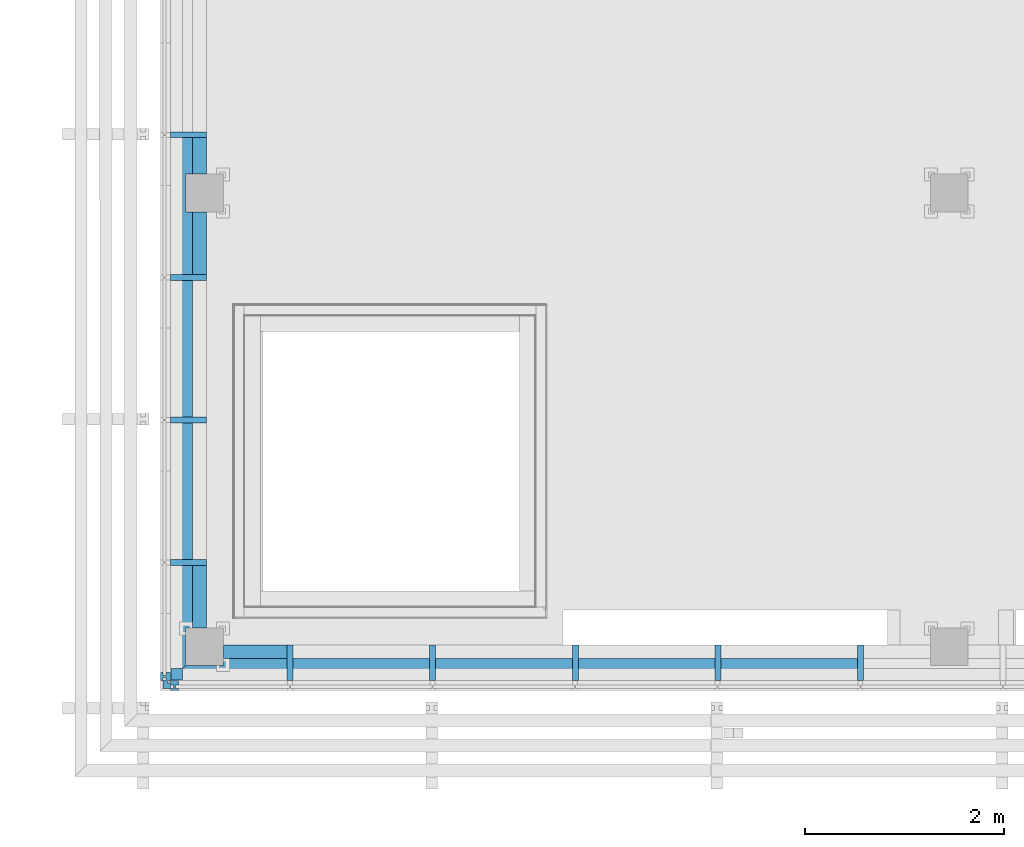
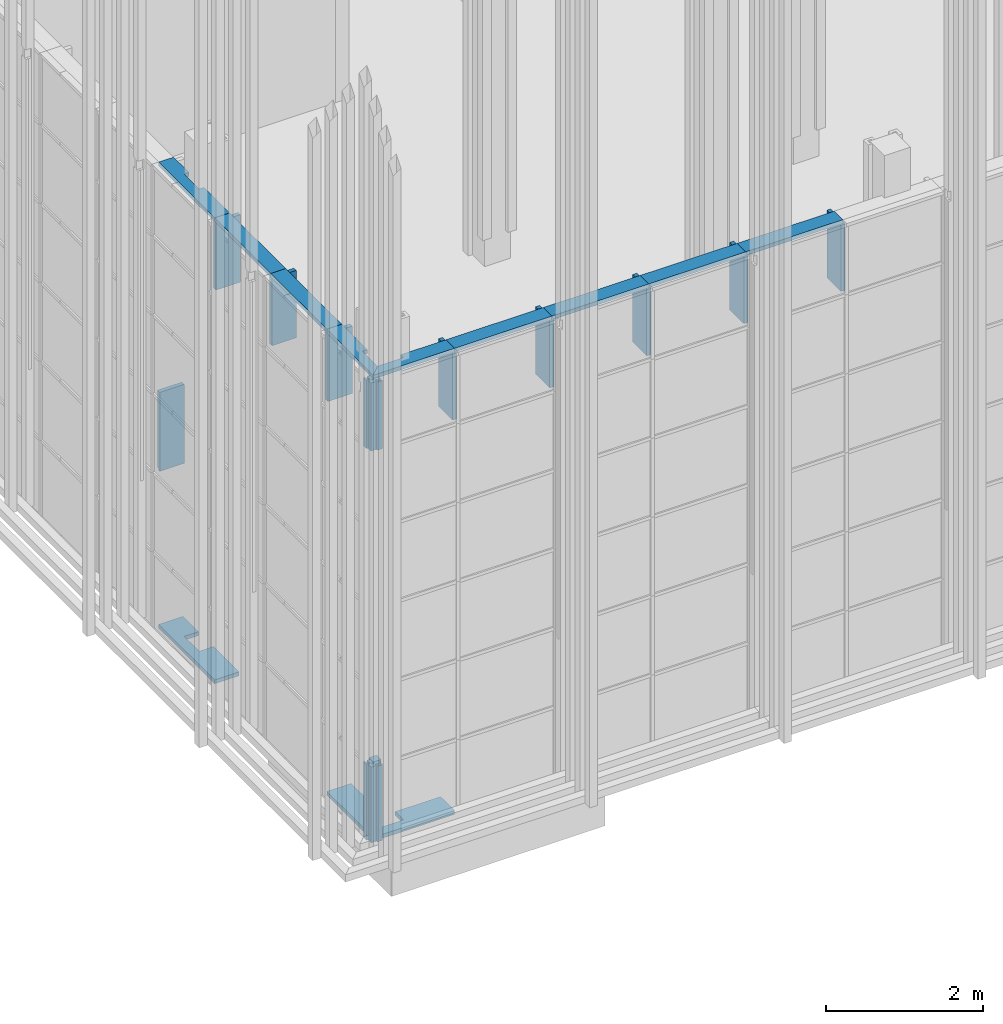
# One storey, part 67 of 260: 24 members, 2 elements without a shape of their own.
"""IFC2X3 building model written with IfcOpenShell, lengths in millimetres."""

from ifc_helpers import new_model, entity, si_unit, converted_unit, derived_unit, money_unit, direction, frame, origin_with_axes, place, context, subcontext, project, spatial, faceted_brep, material, type_object, element, aggregate, save


model = new_model("IFC2X3")

# Units and contexts
model_context = context("Model", 3, precision=0.01, world=origin_with_axes(), true_north=direction((0.0, 1.0)))
body_context = subcontext(model_context, "Body", "Model", "MODEL_VIEW")
ifc_project = project(units=[si_unit("LENGTHUNIT", "METRE", prefix="MILLI"), si_unit("AREAUNIT", "SQUARE_METRE"), si_unit("VOLUMEUNIT", "CUBIC_METRE"), converted_unit("PLANEANGLEUNIT", "DEGREE", entity("IfcPlaneAngleMeasure", 0.0174532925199), si_unit("PLANEANGLEUNIT", "RADIAN"), dimensions=[0, 0, 0, 0, 0, 0, 0]), money_unit("EUR"), converted_unit("TIMEUNIT", "Year", entity("IfcTimeMeasure", 31556926.0), si_unit("TIMEUNIT", "SECOND"), dimensions=[0, 0, 1, 0, 0, 0, 0]), si_unit("MASSUNIT", "GRAM", prefix="KILO"), si_unit("THERMODYNAMICTEMPERATUREUNIT", "DEGREE_CELSIUS"), si_unit("LUMINOUSINTENSITYUNIT", "LUMEN"), si_unit("ENERGYUNIT", "JOULE", prefix="MEGA"), derived_unit("THERMALCONDUCTANCEUNIT", [(si_unit("POWERUNIT", "WATT"), 1), (si_unit("LENGTHUNIT", "METRE"), -1), (si_unit("THERMODYNAMICTEMPERATUREUNIT", "KELVIN"), -1)]), derived_unit("SPECIFICHEATCAPACITYUNIT", [(si_unit("ENERGYUNIT", "JOULE"), 1), (si_unit("MASSUNIT", "GRAM", prefix="KILO"), -1), (si_unit("THERMODYNAMICTEMPERATUREUNIT", "KELVIN"), -1)]), derived_unit("MASSDENSITYUNIT", [(si_unit("MASSUNIT", "GRAM", prefix="KILO"), 1), (si_unit("VOLUMEUNIT", "CUBIC_METRE"), -1)])], contexts=[model_context])

# Site, building, storey
site_placement = place(None, origin_with_axes())
site = spatial("IfcSite", under=ifc_project, at=site_placement, Name="Kolde pst 67a", CompositionType="ELEMENT")
building_placement = place(site_placement, origin_with_axes())
building = spatial("IfcBuilding", under=site, at=building_placement, Name="Riigigümnaasium", CompositionType="ELEMENT")
storey_placement = place(building_placement, origin_with_axes())
storey = spatial("IfcBuildingStorey", under=building, at=storey_placement, Name="1. korrus", CompositionType="ELEMENT", Elevation=0.0)

# Curtain wall, members
curtain_wall_type = type_object("IfcCurtainWallType", Name="Curtain Wall Type", PredefinedType="NOTDEFINED")
curtain_wall_1_placement = place(storey_placement, frame((47829.9854655, 8727.77020058, -0.000749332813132), z_axis=(0.0, 0.0, 1.0), x_axis=(1.0, 0.0, 0.0)))
curtain_wall_1 = element("IfcCurtainWall", 1, at=curtain_wall_1_placement, inside=storey, type_object=curtain_wall_type, Name="KLAASFASSAAD")
ifc_material_1 = material(Name="_METALL - alumiinium")
member_type_1 = type_object("IfcMemberType", Name="Corner Frame 80 x 100", PredefinedType="MEMBER")
member_1_placement = place(curtain_wall_1_placement, frame((-23999.9841542, 15102.5038042, 2.49889189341e-05), z_axis=(0.0, 0.0, 1.0), x_axis=(0.707100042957, -0.707113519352, 0.0)))
member_1 = element("IfcMember", 2, at=member_1_placement, type_object=member_type_1, material=ifc_material_1, Name="RF RAAM NURK-957", ObjectType="MEMBER", context=body_context, shape_type="Brep", body=[
    faceted_brep([(-89.4491322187, 66.1143157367, 50.0), (-89.4491322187, 66.1143157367, 1230.00072434), (-66.114652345, 89.4488834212, 1230.00072434), (-66.114652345, 89.4488834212, 50.0), (-75.3069699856, 51.9722067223, 50.0), (-75.3069699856, 51.9722067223, 1230.00072434), (-51.9724901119, 75.3067744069, 1230.00072434), (-51.9724901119, 75.3067744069, 50.0)], [[[0, 1, 2, 3]], [[4, 5, 1, 0]], [[2, 1, 5, 6]], [[3, 2, 6, 7]], [[3, 7, 4, 0]], [[7, 6, 5, 4]]]),
    faceted_brep([(-87.3278956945, 110.662046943, 50.0), (-87.3278956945, 110.662046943, 1230.00072434), (-56.5688085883, 141.4212498, 1230.00072434), (-56.5688085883, 141.4212498, 50.0), (-30.7592467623, 54.0936108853, 50.0), (-30.7592467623, 54.0936108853, 1230.00072434), (-0.000159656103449, 84.8528137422, 1230.00072434), (-0.000159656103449, 84.8528137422, 50.0)], [[[0, 1, 2, 3]], [[4, 5, 1, 0]], [[2, 1, 5, 6]], [[3, 2, 6, 7]], [[3, 7, 4, 0]], [[7, 6, 5, 4]]]),
    faceted_brep([(-54.093726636, 30.7590432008, 50.0), (-54.093726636, 30.7590432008, 1230.00072434), (-70.7107047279, 14.142002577, 1230.00072434), (-70.7107047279, 14.142002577, 50.0), (-110.662375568, 87.3274792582, 50.0), (-110.662375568, 87.3274792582, 1230.00072434), (-127.27935366, 70.7104386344, 1230.00072434), (-127.27935366, 70.7104386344, 50.0)], [[[0, 1, 2, 3]], [[4, 5, 1, 0]], [[2, 1, 5, 6]], [[3, 2, 6, 7]], [[3, 7, 4, 0]], [[7, 6, 5, 4]]]),
    faceted_brep([(49.8510939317, 35.0016918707, 50.0), (49.8510939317, 35.0016918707, 1230.00072434), (54.093726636, 30.7590432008, 1230.00072434), (54.093726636, 30.7590432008, 50.0), (0.0, -14.8492144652, 50.0), (0.0, -14.8492144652, 1230.00072434), (-49.8510939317, 35.0016918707, 1230.00072434), (-54.093726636, 30.7590432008, 1230.00072434), (0.0, -23.3344798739, 1230.00072434), (0.0, -23.3344798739, 50.0), (-54.093726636, 30.7590432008, 50.0), (-49.8510939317, 35.0016918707, 50.0)], [[[0, 1, 2, 3]], [[4, 5, 1, 0]], [[2, 1, 5, 6, 7, 8]], [[3, 2, 8, 9]], [[3, 9, 10, 11, 4, 0]], [[11, 6, 5, 4]], [[10, 7, 6, 11]], [[9, 8, 7, 10]]]),
    faceted_brep([(45.6084452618, 30.7590591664, 50.0), (45.6084452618, 30.7590591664, 1230.00072434), (18.7384381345, 57.6291674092, 1230.00072434), (18.7384381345, 57.6291674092, 50.0), (49.8510939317, 35.0016918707, 50.0), (49.8510939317, 35.0016918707, 1230.00072434), (18.7384541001, 66.1144487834, 1230.00072434), (0.0, 47.3760651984, 1230.00072434), (-18.7384541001, 66.1144487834, 1230.00072434), (-49.8510939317, 35.0016918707, 1230.00072434), (-45.6084452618, 30.7590591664, 1230.00072434), (-18.7384381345, 57.6291674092, 1230.00072434), (0.0, 38.8907997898, 1230.00072434), (0.0, 38.8907997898, 50.0), (-18.7384381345, 57.6291674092, 50.0), (-45.6084452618, 30.7590591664, 50.0), (-49.8510939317, 35.0016918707, 50.0), (-18.7384541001, 66.1144487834, 50.0), (0.0, 47.3760651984, 50.0), (18.7384541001, 66.1144487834, 50.0)], [[[0, 1, 2, 3]], [[4, 5, 1, 0]], [[2, 1, 5, 6, 7, 8, 9, 10, 11, 12]], [[3, 2, 12, 13]], [[3, 13, 14, 15, 16, 17, 18, 19, 4, 0]], [[19, 6, 5, 4]], [[18, 7, 6, 19]], [[17, 8, 7, 18]], [[16, 9, 8, 17]], [[15, 10, 9, 16]], [[14, 11, 10, 15]], [[13, 12, 11, 14]]]),
    faceted_brep([(18.7384381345, 57.6291674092, 50.0), (18.7384381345, 57.6291674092, 1230.00072434), (45.6084452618, 30.7590591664, 1230.00072434), (45.6084452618, 30.7590591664, 50.0), (0.0, 38.8907997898, 50.0), (0.0, 38.8907997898, 1230.00072434), (-18.7384381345, 57.6291674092, 1230.00072434), (-45.6084452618, 30.7590591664, 1230.00072434), (0.0, -14.8492144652, 1230.00072434), (0.0, -14.8492144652, 50.0), (-45.6084452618, 30.7590591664, 50.0), (-18.7384381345, 57.6291674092, 50.0)], [[[0, 1, 2, 3]], [[4, 5, 1, 0]], [[2, 1, 5, 6, 7, 8]], [[3, 2, 8, 9]], [[3, 9, 10, 11, 4, 0]], [[11, 6, 5, 4]], [[10, 7, 6, 11]], [[9, 8, 7, 10]]]),
    faceted_brep([(75.3069699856, 51.9722067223, 50.0), (75.3069699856, 51.9722067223, 1230.00072434), (51.9724901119, 75.3067744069, 1230.00072434), (51.9724901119, 75.3067744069, 50.0), (89.4491322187, 66.1143157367, 50.0), (89.4491322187, 66.1143157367, 1230.00072434), (66.114652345, 89.4488834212, 1230.00072434), (66.114652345, 89.4488834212, 50.0)], [[[0, 1, 2, 3]], [[4, 5, 1, 0]], [[2, 1, 5, 6]], [[3, 2, 6, 7]], [[3, 7, 4, 0]], [[7, 6, 5, 4]]]),
    faceted_brep([(30.7592467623, 54.0936108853, 50.0), (30.7592467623, 54.0936108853, 1230.00072434), (0.000159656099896, 84.8528137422, 1230.00072434), (0.000159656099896, 84.8528137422, 50.0), (87.3278956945, 110.662046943, 50.0), (87.3278956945, 110.662046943, 1230.00072434), (56.5688085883, 141.4212498, 1230.00072434), (56.5688085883, 141.4212498, 50.0)], [[[0, 1, 2, 3]], [[4, 5, 1, 0]], [[2, 1, 5, 6]], [[3, 2, 6, 7]], [[3, 7, 4, 0]], [[7, 6, 5, 4]]]),
    faceted_brep([(110.662375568, 87.3274792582, 50.0), (110.662375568, 87.3274792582, 1230.00072434), (127.27935366, 70.7104386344, 1230.00072434), (127.27935366, 70.7104386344, 50.0), (54.093726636, 30.7590432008, 50.0), (54.093726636, 30.7590432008, 1230.00072434), (70.7107047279, 14.142002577, 1230.00072434), (70.7107047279, 14.142002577, 50.0)], [[[0, 1, 2, 3]], [[4, 5, 1, 0]], [[2, 1, 5, 6]], [[3, 2, 6, 7]], [[3, 7, 4, 0]], [[7, 6, 5, 4]]]),
])
member_2_placement = place(curtain_wall_1_placement, frame((-23999.9841542, 15102.5038042, 6150.00074933), z_axis=(0.0, 0.0, 1.0), x_axis=(0.707100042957, -0.707113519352, 0.0)))
member_2 = element("IfcMember", 3, at=member_2_placement, type_object=member_type_1, material=ifc_material_1, Name="RF RAAM NURK-962", ObjectType="MEMBER", context=body_context, shape_type="Brep", body=[
    faceted_brep([(-66.114652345, 89.4488834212, 0.0), (-89.4491322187, 66.1143157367, 0.0), (-89.4491322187, 66.1143157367, 1059.99917802), (-66.114652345, 89.4488834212, 1059.99917802), (-51.9724901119, 75.3067744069, 0.0), (-75.3069699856, 51.9722067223, 0.0), (-75.3069699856, 51.9722067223, 1059.99917802), (-51.9724901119, 75.3067744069, 1059.99917802)], [[[0, 1, 2, 3]], [[0, 4, 5, 1]], [[1, 5, 6, 2]], [[3, 2, 6, 7]], [[4, 0, 3, 7]], [[5, 4, 7, 6]]]),
    faceted_brep([(-56.5688085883, 141.4212498, 0.0), (-87.3278956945, 110.662046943, 0.0), (-87.3278956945, 110.662046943, 1059.99917802), (-56.5688085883, 141.4212498, 1059.99917802), (-0.000159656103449, 84.8528137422, 0.0), (-30.7592467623, 54.0936108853, 0.0), (-30.7592467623, 54.0936108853, 1059.99917802), (-0.000159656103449, 84.8528137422, 1059.99917802)], [[[0, 1, 2, 3]], [[0, 4, 5, 1]], [[1, 5, 6, 2]], [[3, 2, 6, 7]], [[4, 0, 3, 7]], [[5, 4, 7, 6]]]),
    faceted_brep([(-70.7107047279, 14.142002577, 0.0), (-54.093726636, 30.7590432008, 0.0), (-54.093726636, 30.7590432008, 1059.99917802), (-70.7107047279, 14.142002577, 1059.99917802), (-127.27935366, 70.7104386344, 0.0), (-110.662375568, 87.3274792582, 0.0), (-110.662375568, 87.3274792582, 1059.99917802), (-127.27935366, 70.7104386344, 1059.99917802)], [[[0, 1, 2, 3]], [[0, 4, 5, 1]], [[1, 5, 6, 2]], [[3, 2, 6, 7]], [[4, 0, 3, 7]], [[5, 4, 7, 6]]]),
    faceted_brep([(54.093726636, 30.7590432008, 0.0), (49.8510939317, 35.0016918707, 0.0), (49.8510939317, 35.0016918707, 1059.99917802), (54.093726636, 30.7590432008, 1059.99917802), (0.0, -23.3344798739, 0.0), (-54.093726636, 30.7590432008, 0.0), (-49.8510939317, 35.0016918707, 0.0), (0.0, -14.8492144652, 0.0), (0.0, -14.8492144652, 1059.99917802), (-49.8510939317, 35.0016918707, 1059.99917802), (-54.093726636, 30.7590432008, 1059.99917802), (0.0, -23.3344798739, 1059.99917802)], [[[0, 1, 2, 3]], [[0, 4, 5, 6, 7, 1]], [[1, 7, 8, 2]], [[3, 2, 8, 9, 10, 11]], [[4, 0, 3, 11]], [[5, 4, 11, 10]], [[6, 5, 10, 9]], [[7, 6, 9, 8]]]),
    faceted_brep([(18.7384381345, 57.6291674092, 0.0), (45.6084452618, 30.7590591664, 0.0), (45.6084452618, 30.7590591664, 1059.99917802), (18.7384381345, 57.6291674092, 1059.99917802), (0.0, 38.8907997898, 0.0), (-18.7384381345, 57.6291674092, 0.0), (-45.6084452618, 30.7590591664, 0.0), (-49.8510939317, 35.0016918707, 0.0), (-18.7384541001, 66.1144487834, 0.0), (0.0, 47.3760651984, 0.0), (18.7384541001, 66.1144487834, 0.0), (49.8510939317, 35.0016918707, 0.0), (49.8510939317, 35.0016918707, 1059.99917802), (18.7384541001, 66.1144487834, 1059.99917802), (0.0, 47.3760651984, 1059.99917802), (-18.7384541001, 66.1144487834, 1059.99917802), (-49.8510939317, 35.0016918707, 1059.99917802), (-45.6084452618, 30.7590591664, 1059.99917802), (-18.7384381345, 57.6291674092, 1059.99917802), (0.0, 38.8907997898, 1059.99917802)], [[[0, 1, 2, 3]], [[0, 4, 5, 6, 7, 8, 9, 10, 11, 1]], [[1, 11, 12, 2]], [[3, 2, 12, 13, 14, 15, 16, 17, 18, 19]], [[4, 0, 3, 19]], [[5, 4, 19, 18]], [[6, 5, 18, 17]], [[7, 6, 17, 16]], [[8, 7, 16, 15]], [[9, 8, 15, 14]], [[10, 9, 14, 13]], [[11, 10, 13, 12]]]),
    faceted_brep([(45.6084452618, 30.7590591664, 0.0), (18.7384381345, 57.6291674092, 0.0), (18.7384381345, 57.6291674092, 1059.99917802), (45.6084452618, 30.7590591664, 1059.99917802), (0.0, -14.8492144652, 0.0), (-45.6084452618, 30.7590591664, 0.0), (-18.7384381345, 57.6291674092, 0.0), (0.0, 38.8907997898, 0.0), (0.0, 38.8907997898, 1059.99917802), (-18.7384381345, 57.6291674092, 1059.99917802), (-45.6084452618, 30.7590591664, 1059.99917802), (0.0, -14.8492144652, 1059.99917802)], [[[0, 1, 2, 3]], [[0, 4, 5, 6, 7, 1]], [[1, 7, 8, 2]], [[3, 2, 8, 9, 10, 11]], [[4, 0, 3, 11]], [[5, 4, 11, 10]], [[6, 5, 10, 9]], [[7, 6, 9, 8]]]),
    faceted_brep([(51.9724901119, 75.3067744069, 0.0), (75.3069699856, 51.9722067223, 0.0), (75.3069699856, 51.9722067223, 1059.99917802), (51.9724901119, 75.3067744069, 1059.99917802), (66.114652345, 89.4488834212, 0.0), (89.4491322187, 66.1143157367, 0.0), (89.4491322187, 66.1143157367, 1059.99917802), (66.114652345, 89.4488834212, 1059.99917802)], [[[0, 1, 2, 3]], [[0, 4, 5, 1]], [[1, 5, 6, 2]], [[3, 2, 6, 7]], [[4, 0, 3, 7]], [[5, 4, 7, 6]]]),
    faceted_brep([(0.000159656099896, 84.8528137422, 0.0), (30.7592467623, 54.0936108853, 0.0), (30.7592467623, 54.0936108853, 1059.99917802), (0.000159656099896, 84.8528137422, 1059.99917802), (56.5688085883, 141.4212498, 0.0), (87.3278956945, 110.662046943, 0.0), (87.3278956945, 110.662046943, 1059.99917802), (56.5688085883, 141.4212498, 1059.99917802)], [[[0, 1, 2, 3]], [[0, 4, 5, 1]], [[1, 5, 6, 2]], [[3, 2, 6, 7]], [[4, 0, 3, 7]], [[5, 4, 7, 6]]]),
    faceted_brep([(127.27935366, 70.7104386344, 0.0), (110.662375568, 87.3274792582, 0.0), (110.662375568, 87.3274792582, 1059.99917802), (127.27935366, 70.7104386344, 1059.99917802), (70.7107047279, 14.142002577, 0.0), (54.093726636, 30.7590432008, 0.0), (54.093726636, 30.7590432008, 1059.99917802), (70.7107047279, 14.142002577, 1059.99917802)], [[[0, 1, 2, 3]], [[0, 4, 5, 1]], [[1, 5, 6, 2]], [[3, 2, 6, 7]], [[4, 0, 3, 7]], [[5, 4, 7, 6]]]),
])
aggregate(curtain_wall_1, [member_1, member_2])

curtain_wall_2_placement = place(storey_placement, frame((23890.0026791, 27220.1832522, -0.000253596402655), z_axis=(0.0, 0.0, 1.0), x_axis=(1.0, 0.0, 0.0)))
curtain_wall_2 = element("IfcCurtainWall", 4, at=curtain_wall_2_placement, inside=storey, type_object=curtain_wall_type, Name="Klaasfassaadi puitkarkass")
ifc_material_2 = material(Name="_KANDETARIND - liimpuit vastavalt EK osale")
member_type_2 = type_object("IfcMemberType", Name="120 x 120", PredefinedType="MULLION")
member_3_placement = place(curtain_wall_2_placement, frame((-1.70701603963e-05, -3330.16844724, 0.0), z_axis=(0.0, 0.0, 1.0), x_axis=(0.707106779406, -0.707106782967, 0.0)))
member_3 = element("IfcMember", 5, at=member_3_placement, type_object=member_type_2, material=ifc_material_2, Name="RF RAAM NURK-852", ObjectType="MULLION", context=body_context, shape_type="Brep", body=[
    faceted_brep([(0.0, 169.705627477, 60.0), (0.0, 169.705627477, 1230.0002536), (81.3172798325, 88.388347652, 1230.0002536), (81.3172798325, 88.388347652, 60.0), (-81.3172798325, 88.388347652, 60.0), (-81.3172798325, 88.388347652, 1230.0002536), (0.0, 7.07106781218, 1230.0002536), (0.0, 7.07106781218, 60.0)], [[[0, 1, 2, 3]], [[4, 5, 1, 0]], [[2, 1, 5, 6]], [[3, 2, 6, 7]], [[3, 7, 4, 0]], [[7, 6, 5, 4]]]),
])
member_type_3 = type_object("IfcMemberType", Name="Boundary Frame 60 x 360", PredefinedType="MEMBER")
member_4_placement = place(curtain_wall_2_placement, frame((-1.70701603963e-05, -3330.16844724, 0.0), z_axis=(5.12591514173e-09, 1.0, 0.0), x_axis=(0.0, 0.0, 1.0)))
member_4 = element("IfcMember", 6, at=member_4_placement, type_object=member_type_3, material=ifc_material_2, Name="RF RAAM SERV-709", ObjectType="MEMBER", context=body_context, shape_type="Brep", body=[
    faceted_brep([(60.0, 150.00007139, 150.255589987), (60.0, 150.000069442, 530.255589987), (60.0, 359.999997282, 530.255591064), (60.0, 359.999993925, 1185.16844929), (60.0, -6.07507288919e-06, 1185.16844745), (60.0, 0.0, 0.0), (60.0, 150.255587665, 150.255589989), (0.000253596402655, 150.00007139, 150.255589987), (0.000253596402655, 150.000069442, 530.255589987), (0.000253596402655, 359.999997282, 530.255591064), (0.0, 359.999993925, 1185.16844929), (0.0, -6.07507288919e-06, 1185.16844745), (0.0, 0.0, 0.0), (0.000253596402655, 150.255587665, 150.255589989)], [[[0, 1, 2, 3, 4, 5, 6]], [[1, 0, 7, 8]], [[9, 2, 1, 8]], [[2, 9, 10, 3]], [[4, 3, 10, 11]], [[11, 12, 5, 4]], [[13, 6, 5, 12]], [[0, 6, 13, 7]], [[7, 13, 12, 11, 10, 9, 8]]]),
])
member_5_placement = place(curtain_wall_2_placement, frame((3.66502916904e-06, 715.0, 0.0), z_axis=(5.12591740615e-09, 1.0, 0.0), x_axis=(0.0, 0.0, 1.0)))
member_5 = element("IfcMember", 7, at=member_5_placement, type_object=member_type_3, material=ifc_material_2, Name="RF RAAM SERV-712", ObjectType="MEMBER", context=body_context, shape_type="Brep", body=[
    faceted_brep([(60.0, 150.000048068, 654.816448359), (60.0, 150.00004612, 1034.81644836), (60.0, 359.999994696, 1034.81644944), (60.0, 359.99999267, 1430.00000185), (60.0, -7.3300618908e-06, 1430.0), (60.0, 0.0, 0.0), (60.0, 360.0, 1.84532922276e-06), (60.0, 359.999996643, 654.816449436), (0.000253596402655, 150.000048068, 654.816448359), (0.000253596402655, 150.00004612, 1034.81644836), (0.000253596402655, 359.999994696, 1034.81644944), (0.0, 359.99999267, 1430.00000185), (0.0, -7.3300618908e-06, 1430.0), (0.0, 0.0, 0.0), (0.0, 360.0, 1.84532922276e-06), (0.000253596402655, 359.999996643, 654.816449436)], [[[0, 1, 2, 3, 4, 5, 6, 7]], [[1, 0, 8, 9]], [[10, 2, 1, 9]], [[2, 10, 11, 3]], [[4, 3, 11, 12]], [[13, 5, 4, 12]], [[14, 6, 5, 13]], [[15, 7, 6, 14]], [[0, 7, 15, 8]], [[8, 15, 14, 13, 12, 11, 10, 9]]]),
])
member_6_placement = place(curtain_wall_2_placement, frame((1199.37705572, -3330.16844713, 0.000124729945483), z_axis=(-1.0, 0.0, 0.0), x_axis=(0.0, 0.0, 1.0)))
member_6 = element("IfcMember", 8, at=member_6_placement, type_object=member_type_3, material=ifc_material_2, Name="RF RAAM SERV-678", ObjectType="MEMBER", context=body_context, shape_type="Brep", body=[
    faceted_brep([(0.000128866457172, 360.0, 669.377000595), (60.0, 360.0, 669.377000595), (60.0, 360.0, 0.0), (0.0, 360.0, 0.0), (60.0, 150.255589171, 669.377000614), (0.000128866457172, 150.255589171, 669.377000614), (60.0, 150.255589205, 1049.1214828), (60.0, 0.0, 1199.37707279), (60.0, 0.0, 0.0), (0.0, 0.0, 0.0), (0.0, 0.0, 1199.37707279), (0.000128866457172, 150.255589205, 1049.1214828)], [[[0, 1, 2, 3]], [[4, 1, 0, 5]], [[4, 6, 7, 8, 2, 1]], [[3, 2, 8, 9]], [[5, 0, 3, 9, 10, 11]], [[6, 4, 5, 11]], [[6, 11, 10, 7]], [[9, 8, 7, 10]]]),
])
member_7_placement = place(curtain_wall_2_placement, frame((5489.37705572, -3330.16844674, 7259.9999973), z_axis=(1.0, 0.0, -9.10009783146e-09), x_axis=(-9.10009783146e-09, 0.0, -1.0)))
member_7 = element("IfcMember", 9, at=member_7_placement, type_object=member_type_3, material=ifc_material_2, Name="RF RAAM SERV-689", ObjectType="MEMBER", context=body_context, shape_type="Brep", body=[
    faceted_brep([(59.9997369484, 220.255589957, 1430.00000055), (-1.3013139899e-05, 220.255589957, 1430.0), (-1.3013139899e-05, 0.0, 1430.0), (59.9999869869, 0.0, 1430.00000055), (0.0, 220.255589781, 0.0), (59.9997499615, 220.255589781, 5.46005907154e-07), (0.0, 0.0, 0.0), (60.0, 0.0, 5.46005907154e-07)], [[[0, 1, 2, 3]], [[4, 1, 0, 5]], [[1, 4, 6, 2]], [[6, 7, 3, 2]], [[5, 0, 3, 7]], [[4, 5, 7, 6]]]),
])
member_8_placement = place(curtain_wall_2_placement, frame((4059.37705572, -3330.16844687, 7260.00001031), z_axis=(1.0, 0.0, -9.10009658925e-09), x_axis=(-9.10009658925e-09, 0.0, -1.0)))
member_8 = element("IfcMember", 10, at=member_8_placement, type_object=member_type_3, material=ifc_material_2, Name="RF RAAM SERV-688", ObjectType="MEMBER", context=body_context, shape_type="Brep", body=[
    faceted_brep([(59.9997499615, 220.255589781, 1430.00000055), (-1.30131381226e-05, 220.255589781, 1430.0), (-1.30131381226e-05, 0.0, 1430.0), (59.9999869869, 0.0, 1430.00000055), (0.0, 220.255589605, 0.0), (59.9997629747, 220.255589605, 5.46005907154e-07), (0.0, 0.0, 0.0), (60.0, 0.0, 5.46005907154e-07)], [[[0, 1, 2, 3]], [[4, 1, 0, 5]], [[1, 4, 6, 2]], [[6, 7, 3, 2]], [[5, 0, 3, 7]], [[4, 5, 7, 6]]]),
])
member_9_placement = place(curtain_wall_2_placement, frame((2629.37705572, -3330.168447, 7260.00002333), z_axis=(1.0, 0.0, -9.10009721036e-09), x_axis=(-9.10009721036e-09, 0.0, -1.0)))
member_9 = element("IfcMember", 11, at=member_9_placement, type_object=member_type_3, material=ifc_material_2, Name="RF RAAM SERV-687", ObjectType="MEMBER", context=body_context, shape_type="Brep", body=[
    faceted_brep([(59.9997629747, 220.255589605, 1430.00000055), (-1.30131390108e-05, 220.255589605, 1430.0), (-1.30131390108e-05, 0.0, 1430.0), (59.9999869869, 0.0, 1430.00000055), (0.0, 220.255589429, 0.0), (59.9997759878, 220.255589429, 5.46009459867e-07), (0.0, 0.0, 0.0), (60.0, 0.0, 5.46005907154e-07)], [[[0, 1, 2, 3]], [[4, 1, 0, 5]], [[1, 4, 6, 2]], [[6, 7, 3, 2]], [[5, 0, 3, 7]], [[4, 5, 7, 6]]]),
])
member_10_placement = place(curtain_wall_2_placement, frame((1199.37705572, -3330.16844713, 7260.00003634), z_axis=(1.0, 0.0, -9.10009658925e-09), x_axis=(-9.10009658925e-09, 0.0, -1.0)))
member_10 = element("IfcMember", 12, at=member_10_placement, type_object=member_type_3, material=ifc_material_2, Name="RF RAAM SERV-686", ObjectType="MEMBER", context=body_context, shape_type="Brep", body=[
    faceted_brep([(59.9997759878, 220.255589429, 1430.00000055), (-1.30131381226e-05, 220.255589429, 1430.0), (-1.30131381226e-05, 0.0, 1430.0), (59.9999869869, 0.0, 1430.00000055), (0.0, 220.255589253, 0.0), (59.999789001, 220.255589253, 5.46005907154e-07), (0.0, 0.0, 0.0), (60.0, 0.0, 5.46005907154e-07)], [[[0, 1, 2, 3]], [[4, 1, 0, 5]], [[1, 4, 6, 2]], [[6, 7, 3, 2]], [[5, 0, 3, 7]], [[4, 5, 7, 6]]]),
])
member_11_placement = place(curtain_wall_2_placement, frame((-1.70701603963e-05, -3330.16844724, 7260.00004716), z_axis=(1.0, 0.0, -9.02422371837e-09), x_axis=(-9.02422371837e-09, 0.0, -1.0)))
member_11 = element("IfcMember", 13, at=member_11_placement, type_object=member_type_3, material=ifc_material_2, Name="RF RAAM SERV-685", ObjectType="MEMBER", context=body_context, shape_type="Brep", body=[
    faceted_brep([(59.999789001, 220.255589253, 1199.37707333), (-1.08234470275e-05, 220.255589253, 1199.37707279), (-1.08234470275e-05, 0.0, 1199.37707279), (59.9999891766, 0.0, 1199.37707333), (-4.78283901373e-06, 220.255589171, 530.000072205), (59.9997950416, 220.255589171, 530.000072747), (-4.78283901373e-06, 150.255589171, 530.000072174), (-1.35593936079e-06, 150.255589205, 150.255589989), (0.0, 0.0, 0.0), (60.0, 0.0, 5.41454880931e-07), (59.9999986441, 150.255589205, 150.25559053), (59.9999952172, 150.255589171, 530.000072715)], [[[0, 1, 2, 3]], [[4, 1, 0, 5]], [[1, 4, 6, 7, 8, 2]], [[3, 2, 8, 9]], [[5, 0, 3, 9, 10, 11]], [[4, 5, 11, 6]], [[10, 7, 6, 11]], [[8, 7, 10, 9]]]),
])
member_12_placement = place(curtain_wall_2_placement, frame((-1.09950875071e-05, -2145.0, 7260.00000132), z_axis=(-5.12591514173e-09, -1.0, 0.0), x_axis=(0.0, 0.0, -1.0)))
member_12 = element("IfcMember", 14, at=member_12_placement, type_object=member_type_3, material=ifc_material_2, Name="RF RAAM SERV-736", ObjectType="MEMBER", context=body_context, shape_type="Brep", body=[
    faceted_brep([(0.0, 220.000069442, 654.91285689), (0.0, 220.000066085, -1.12770237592e-06), (0.0, 0.0, 0.0), (0.0, 6.07507288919e-06, 1185.16844724), (0.0, 150.25559374, 1034.91285725), (0.0, 150.00007139, 1034.91285725), (0.0, 150.000069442, 654.912857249), (59.9997539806, 220.000066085, -1.12770237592e-06), (59.9997539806, 220.000069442, 654.91285689), (60.0, 0.0, 0.0), (60.0, 6.07507288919e-06, 1185.16844669), (60.0, 150.255593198, 1034.91285725), (60.0, 150.00007139, 1034.91285725), (60.0, 150.000069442, 654.912857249)], [[[0, 1, 2, 3, 4, 5, 6]], [[7, 1, 0, 8]], [[1, 7, 9, 2]], [[3, 2, 9, 10]], [[10, 11, 4, 3]], [[12, 5, 4, 11]], [[13, 6, 5, 12]], [[8, 0, 6, 13]], [[7, 8, 13, 12, 11, 10, 9]]]),
])
member_13_placement = place(curtain_wall_2_placement, frame((-3.66502916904e-06, -715.0, 7260.00000132), z_axis=(-5.12591492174e-09, -1.0, 0.0), x_axis=(0.0, 0.0, -1.0)))
member_13 = element("IfcMember", 15, at=member_13_placement, type_object=member_type_3, material=ifc_material_2, Name="RF RAAM SERV-735", ObjectType="MEMBER", context=body_context, shape_type="Brep", body=[
    faceted_brep([(0.0, 220.000066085, 1429.99999887), (0.0, 220.000058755, -1.12770237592e-06), (0.0, 0.0, 0.0), (0.0, 7.33005833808e-06, 1430.0), (59.9997539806, 220.000058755, -1.12770237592e-06), (59.9997539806, 220.000066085, 1429.99999887), (60.0, 0.0, 0.0), (60.0, 7.33005833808e-06, 1430.0)], [[[0, 1, 2, 3]], [[4, 1, 0, 5]], [[1, 4, 6, 2]], [[2, 6, 7, 3]], [[5, 0, 3, 7]], [[4, 5, 7, 6]]]),
])
member_14_placement = place(curtain_wall_2_placement, frame((3.66502916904e-06, 715.0, 7260.00000132), z_axis=(-5.12591492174e-09, -1.0, 0.0), x_axis=(0.0, 0.0, -1.0)))
member_14 = element("IfcMember", 16, at=member_14_placement, type_object=member_type_3, material=ifc_material_2, Name="RF RAAM SERV-734", ObjectType="MEMBER", context=body_context, shape_type="Brep", body=[
    faceted_brep([(0.0, 220.000058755, 1429.99999887), (0.0, 220.000051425, -1.12770237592e-06), (0.0, 0.0, 0.0), (0.0, 7.33005833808e-06, 1430.0), (59.9997539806, 220.000051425, -1.12770237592e-06), (59.9997539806, 220.000058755, 1429.99999887), (60.0, 0.0, 0.0), (60.0, 7.33005833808e-06, 1430.0)], [[[0, 1, 2, 3]], [[4, 1, 0, 5]], [[1, 4, 6, 2]], [[2, 6, 7, 3]], [[5, 0, 3, 7]], [[4, 5, 7, 6]]]),
])
member_15_placement = place(curtain_wall_2_placement, frame((1.09950910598e-05, 2145.0, 7260.00000132), z_axis=(-5.12591740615e-09, -1.0, 0.0), x_axis=(0.0, 0.0, -1.0)))
member_15 = element("IfcMember", 17, at=member_15_placement, type_object=member_type_3, material=ifc_material_2, Name="RF RAAM SERV-733", ObjectType="MEMBER", context=body_context, shape_type="Brep", body=[
    faceted_brep([(0.0, 220.000051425, 1429.99999887), (0.0, 220.000048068, 775.183551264), (0.0, 150.000048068, 775.183551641), (0.0, 150.00004612, 395.183551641), (0.0, 220.00004612, 395.183551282), (0.0, 220.000044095, -1.12769882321e-06), (0.0, 0.0, 0.0), (0.0, 7.3300618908e-06, 1430.0), (59.9997539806, 220.000048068, 775.183551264), (59.9997539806, 220.000051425, 1429.99999887), (60.0, 150.000048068, 775.183551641), (60.0, 150.00004612, 395.183551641), (59.9997477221, 220.00004612, 395.183551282), (59.9997477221, 220.000044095, -1.12769882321e-06), (60.0, 0.0, 0.0), (60.0, 7.3300618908e-06, 1430.0)], [[[0, 1, 2, 3, 4, 5, 6, 7]], [[8, 1, 0, 9]], [[1, 8, 10, 2]], [[10, 11, 3, 2]], [[11, 12, 4, 3]], [[12, 13, 5, 4]], [[6, 5, 13, 14]], [[15, 7, 6, 14]], [[9, 0, 7, 15]], [[8, 9, 15, 14, 13, 12, 11, 10]]]),
])
member_type_4 = type_object("IfcMemberType", Name="Mullion Frame 60 x 360", PredefinedType="MEMBER")
member_16_placement = place(curtain_wall_2_placement, frame((1.09950910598e-05, 2145.0, 2460.0002536), z_axis=(0.0, 0.0, 1.0), x_axis=(-5.12591616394e-09, -1.0, 0.0)))
member_16 = element("IfcMember", 18, at=member_16_placement, type_object=member_type_4, material=ifc_material_2, Name="RF RAAM VERT-837", ObjectType="MEMBER", context=body_context, shape_type="Brep", body=[
    faceted_brep([(0.0, 0.0, 30.0), (0.0, 0.0, 0.0), (30.0, 0.0, 0.0), (30.0, 0.0, 1230.0), (-30.0, 0.0, 1230.0), (-30.0, 0.0, 30.0), (0.0, 360.0, 30.0), (0.0, 360.0, 0.0), (30.0, 360.0, 0.0), (30.0, 360.0, 1230.0), (-30.0, 360.0, 1230.0), (-30.0, 360.0, 30.0)], [[[0, 1, 2, 3, 4, 5]], [[0, 6, 7, 1]], [[7, 8, 2, 1]], [[2, 8, 9, 3]], [[3, 9, 10, 4]], [[5, 4, 10, 11]], [[5, 11, 6, 0]], [[6, 11, 10, 9, 8, 7]]]),
])
member_17_placement = place(curtain_wall_2_placement, frame((-1.09950875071e-05, -2145.0, 6150.0002536), z_axis=(0.0, 0.0, 1.0), x_axis=(-5.12591503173e-09, -1.0, 0.0)))
member_17 = element("IfcMember", 19, at=member_17_placement, type_object=member_type_4, material=ifc_material_2, Name="RF RAAM VERT-186", ObjectType="MEMBER", context=body_context, shape_type="Brep", body=[
    faceted_brep([(30.0, 0.0, 0.0), (30.0, 360.0, 0.0), (30.0, 360.0, 1049.99958427), (30.0, 0.0, 1049.99958755), (-30.0, 360.0, 0.0), (-30.0, 0.0, 0.0), (-30.0, 360.0, 1049.99958427), (-30.0, 0.0, 1049.99958755)], [[[0, 1, 2, 3]], [[4, 1, 0, 5]], [[1, 4, 6, 2]], [[3, 2, 6, 7]], [[5, 0, 3, 7]], [[4, 5, 7, 6]]]),
])
member_18_placement = place(curtain_wall_2_placement, frame((-3.66502916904e-06, -715.0, 6150.0002536), z_axis=(0.0, 0.0, 1.0), x_axis=(-5.12591492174e-09, -1.0, 0.0)))
member_18 = element("IfcMember", 20, at=member_18_placement, type_object=member_type_4, material=ifc_material_2, Name="RF RAAM VERT-187", ObjectType="MEMBER", context=body_context, shape_type="Brep", body=[
    faceted_brep([(30.0, 0.0, 0.0), (30.0, 360.0, 0.0), (30.0, 360.0, 1049.99958427), (30.0, 0.0, 1049.99958755), (-30.0, 360.0, 0.0), (-30.0, 0.0, 0.0), (-30.0, 360.0, 1049.99958427), (-30.0, 0.0, 1049.99958755)], [[[0, 1, 2, 3]], [[4, 1, 0, 5]], [[1, 4, 6, 2]], [[3, 2, 6, 7]], [[5, 0, 3, 7]], [[4, 5, 7, 6]]]),
])
member_19_placement = place(curtain_wall_2_placement, frame((3.66502916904e-06, 715.0, 6150.0002536), z_axis=(0.0, 0.0, 1.0), x_axis=(-5.12591616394e-09, -1.0, 0.0)))
member_19 = element("IfcMember", 21, at=member_19_placement, type_object=member_type_4, material=ifc_material_2, Name="RF RAAM VERT-188", ObjectType="MEMBER", context=body_context, shape_type="Brep", body=[
    faceted_brep([(30.0, 0.0, 0.0), (30.0, 360.0, 0.0), (30.0, 360.0, 1049.99958427), (30.0, 0.0, 1049.99958755), (-30.0, 360.0, 0.0), (-30.0, 0.0, 0.0), (-30.0, 360.0, 1049.99958427), (-30.0, 0.0, 1049.99958755)], [[[0, 1, 2, 3]], [[4, 1, 0, 5]], [[1, 4, 6, 2]], [[3, 2, 6, 7]], [[5, 0, 3, 7]], [[4, 5, 7, 6]]]),
])
member_20_placement = place(curtain_wall_2_placement, frame((6919.37705572, -3330.16844661, 6150.0002536), z_axis=(0.0, 0.0, 1.0), x_axis=(1.0, 0.0, 0.0)))
member_20 = element("IfcMember", 22, at=member_20_placement, type_object=member_type_4, material=ifc_material_2, Name="RF RAAM VERT-230", ObjectType="MEMBER", context=body_context, shape_type="Brep", body=[
    faceted_brep([(30.0, -2.70716782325e-09, 0.0), (30.0000000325, 359.999999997, 0.0), (30.0000000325, 359.999999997, 1049.99958427), (30.0, -2.70716782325e-09, 1049.99958755), (-29.9999999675, 360.000000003, 0.0), (-30.0, 2.70361510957e-09, 0.0), (-29.9999999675, 360.000000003, 1049.99958427), (-30.0, 2.70361510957e-09, 1049.99958755)], [[[0, 1, 2, 3]], [[4, 1, 0, 5]], [[1, 4, 6, 2]], [[3, 2, 6, 7]], [[5, 0, 3, 7]], [[4, 5, 7, 6]]]),
])
member_21_placement = place(curtain_wall_2_placement, frame((5489.37705572, -3330.16844674, 6150.0002536), z_axis=(0.0, 0.0, 1.0), x_axis=(1.0, 0.0, 0.0)))
member_21 = element("IfcMember", 23, at=member_21_placement, type_object=member_type_4, material=ifc_material_2, Name="RF RAAM VERT-231", ObjectType="MEMBER", context=body_context, shape_type="Brep", body=[
    faceted_brep([(30.0, -2.70716782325e-09, 0.0), (30.0000000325, 359.999999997, 0.0), (30.0000000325, 359.999999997, 1049.99958427), (30.0, -2.70716782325e-09, 1049.99958755), (-29.9999999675, 360.000000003, 0.0), (-30.0, 2.70716782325e-09, 0.0), (-29.9999999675, 360.000000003, 1049.99958427), (-30.0, 2.70716782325e-09, 1049.99958755)], [[[0, 1, 2, 3]], [[4, 1, 0, 5]], [[1, 4, 6, 2]], [[3, 2, 6, 7]], [[5, 0, 3, 7]], [[4, 5, 7, 6]]]),
])
member_22_placement = place(curtain_wall_2_placement, frame((4059.37705572, -3330.16844687, 6150.0002536), z_axis=(0.0, 0.0, 1.0), x_axis=(1.0, 0.0, 0.0)))
member_22 = element("IfcMember", 24, at=member_22_placement, type_object=member_type_4, material=ifc_material_2, Name="RF RAAM VERT-232", ObjectType="MEMBER", context=body_context, shape_type="Brep", body=[
    faceted_brep([(30.0, -2.70716782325e-09, 0.0), (30.0000000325, 359.999999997, 0.0), (30.0000000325, 359.999999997, 1049.99958427), (30.0, -2.70716782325e-09, 1049.99958755), (-29.9999999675, 360.000000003, 0.0), (-30.0, 2.70361510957e-09, 0.0), (-29.9999999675, 360.000000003, 1049.99958427), (-30.0, 2.70361510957e-09, 1049.99958755)], [[[0, 1, 2, 3]], [[4, 1, 0, 5]], [[1, 4, 6, 2]], [[3, 2, 6, 7]], [[5, 0, 3, 7]], [[4, 5, 7, 6]]]),
])
member_23_placement = place(curtain_wall_2_placement, frame((2629.37705572, -3330.168447, 6150.0002536), z_axis=(0.0, 0.0, 1.0), x_axis=(1.0, 0.0, 0.0)))
member_23 = element("IfcMember", 25, at=member_23_placement, type_object=member_type_4, material=ifc_material_2, Name="RF RAAM VERT-233", ObjectType="MEMBER", context=body_context, shape_type="Brep", body=[
    faceted_brep([(30.0, -2.70716782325e-09, 0.0), (30.0000000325, 359.999999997, 0.0), (30.0000000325, 359.999999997, 1049.99958427), (30.0, -2.70716782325e-09, 1049.99958755), (-29.9999999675, 360.000000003, 0.0), (-30.0, 2.70716782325e-09, 0.0), (-29.9999999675, 360.000000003, 1049.99958427), (-30.0, 2.70716782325e-09, 1049.99958755)], [[[0, 1, 2, 3]], [[4, 1, 0, 5]], [[1, 4, 6, 2]], [[3, 2, 6, 7]], [[5, 0, 3, 7]], [[4, 5, 7, 6]]]),
])
member_24_placement = place(curtain_wall_2_placement, frame((1199.37705572, -3330.16844713, 6150.0002536), z_axis=(0.0, 0.0, 1.0), x_axis=(1.0, 0.0, 0.0)))
member_24 = element("IfcMember", 26, at=member_24_placement, type_object=member_type_4, material=ifc_material_2, Name="RF RAAM VERT-234", ObjectType="MEMBER", context=body_context, shape_type="Brep", body=[
    faceted_brep([(30.0, -2.70716782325e-09, 0.0), (30.0000000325, 359.999999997, 0.0), (30.0000000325, 359.999999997, 1049.99958427), (30.0, -2.70716782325e-09, 1049.99958755), (-29.9999999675, 360.000000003, 0.0), (-30.0, 2.70361510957e-09, 0.0), (-29.9999999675, 360.000000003, 1049.99958427), (-30.0, 2.70361510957e-09, 1049.99958755)], [[[0, 1, 2, 3]], [[4, 1, 0, 5]], [[1, 4, 6, 2]], [[3, 2, 6, 7]], [[5, 0, 3, 7]], [[4, 5, 7, 6]]]),
])
aggregate(curtain_wall_2, [member_3, member_4, member_16, member_5, member_6, member_17, member_18, member_19, member_20, member_7, member_21, member_8, member_22, member_9, member_23, member_10, member_24, member_11, member_12, member_13, member_14, member_15])

save(model, "model.ifc")
